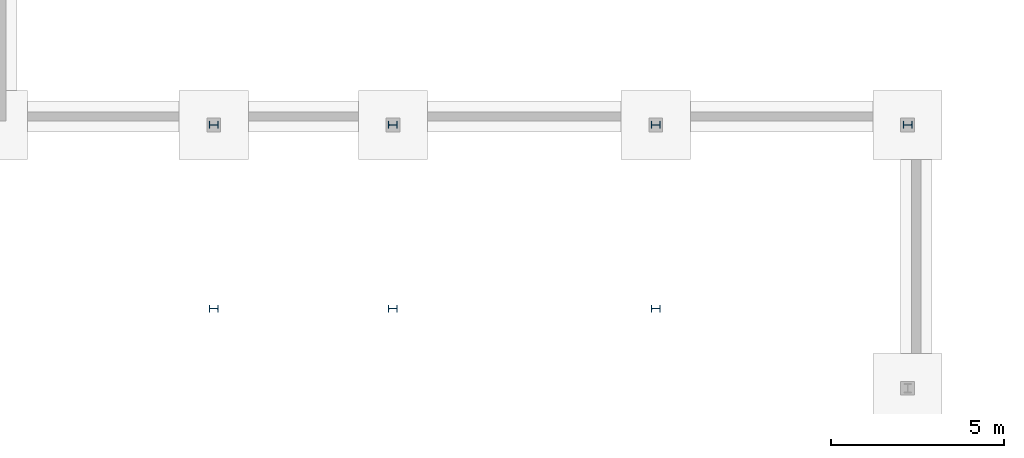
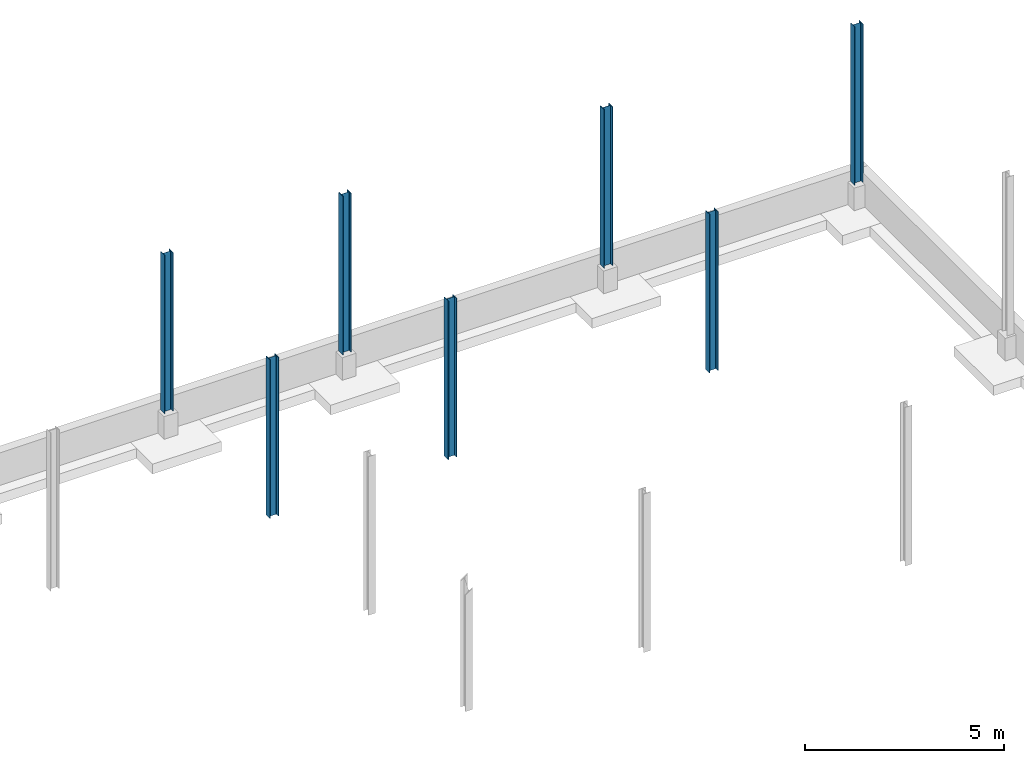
# One storey, part 9 of 11: 7 columns.
"""IFC2X3 building model written with IfcOpenShell, lengths in metres."""

from ifc_helpers import new_model, entity, si_unit, converted_unit, frame, frame_2d, origin, place, context, project, spatial, polyline, circle_curve, parameter, trimmed, segment, composite_curve, outline, extrude, source, transform, mapped, material, type_object, type_shapes, element, save


model = new_model("IFC2X3")

# Units and contexts
model_context = context("Model", 3, precision=1e-09, world=origin())
plan_context = context("Plan", 3, precision=1e-09, world=origin())
ifc_project = project(units=[si_unit("LENGTHUNIT", "METRE"), si_unit("AREAUNIT", "SQUARE_METRE"), si_unit("VOLUMEUNIT", "CUBIC_METRE"), converted_unit("PLANEANGLEUNIT", "DEGREE", entity("IfcRatioMeasure", 0.01745329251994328), si_unit("PLANEANGLEUNIT", "RADIAN"), dimensions=[0, 0, 0, 0, 0, 0, 0]), si_unit("TIMEUNIT", "SECOND")], contexts=[model_context, plan_context])

# Site, building, storey
site_placement = place(None, origin())
site = spatial("IfcSite", under=ifc_project, at=site_placement, Name="Default", CompositionType="ELEMENT")
building_placement = place(site_placement, origin())
building = spatial("IfcBuilding", under=site, at=building_placement, CompositionType="ELEMENT")
storey_placement = place(building_placement, frame((0.0, 0.0, -1.0)))
storey = spatial("IfcBuildingStorey", under=building, at=storey_placement, Name="TOF Footing", CompositionType="ELEMENT", Elevation=-1.000000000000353)

# Columns
ifc_material = material(Name="Metal - Steel - 345 MPa")
column_type = type_object("IfcColumnType", Name="W250X67", PredefinedType="COLUMN")
shared_shape = source(origin(), model_context, "Body", "SweptSolid", [
    extrude(outline(composite_curve([segment(polyline([(-0.102, -0.1285), (0.102, -0.1285)]), True, "CONTINUOUS"), segment(polyline([(0.102, -0.1285), (0.102, -0.1128)]), True, "CONTINUOUS"), segment(polyline([(0.102, -0.1128), (0.02174999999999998, -0.1128)]), True, "CONTINUOUS"), segment(trimmed(circle_curve(frame_2d((0.02174999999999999, -0.09549999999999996), x_axis=(-1.0, 0.0)), 0.0173), [parameter(4.071109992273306e-13)], [parameter(90.00000000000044)], True, "PARAMETER"), False, "CONTINUOUS"), segment(polyline([(0.004449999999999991, -0.09549999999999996), (0.004449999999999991, 0.09549999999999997)]), True, "CONTINUOUS"), segment(trimmed(circle_curve(frame_2d((0.02174999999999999, 0.09549999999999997), x_axis=(-1.0, 0.0)), 0.0173), [parameter(270.0000000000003)], [parameter(3.562221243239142e-13)], True, "PARAMETER"), False, "CONTINUOUS"), segment(polyline([(0.02174999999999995, 0.1128), (0.102, 0.1128)]), True, "CONTINUOUS"), segment(polyline([(0.102, 0.1128), (0.102, 0.1285)]), True, "CONTINUOUS"), segment(polyline([(0.102, 0.1285), (-0.102, 0.1285)]), True, "CONTINUOUS"), segment(polyline([(-0.102, 0.1285), (-0.102, 0.1128)]), True, "CONTINUOUS"), segment(polyline([(-0.102, 0.1128), (-0.02174999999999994, 0.1128)]), True, "CONTINUOUS"), segment(trimmed(circle_curve(frame_2d((-0.02175000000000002, 0.09549999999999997), x_axis=(-1.0, 0.0)), 0.0173), [parameter(179.9999999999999)], [parameter(269.9999999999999)], True, "PARAMETER"), False, "CONTINUOUS"), segment(polyline([(-0.004450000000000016, 0.09550000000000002), (-0.004450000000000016, -0.09549999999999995)]), True, "CONTINUOUS"), segment(trimmed(circle_curve(frame_2d((-0.02175000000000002, -0.09549999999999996), x_axis=(-1.0, 0.0)), 0.0173), [parameter(90.00000000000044)], [parameter(180.0000000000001)], True, "PARAMETER"), False, "CONTINUOUS"), segment(polyline([(-0.02175000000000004, -0.1128), (-0.102, -0.1128)]), True, "CONTINUOUS"), segment(polyline([(-0.102, -0.1128), (-0.102, -0.1285)]), True, "CONTINUOUS")], self_intersect=False)), frame((0.0, 0.0, -0.305000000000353), z_axis=(0.0, 0.0, 1.0), x_axis=(-1.0, 0.0, 0.0)), (0.0, 0.0, 1.0), 4.87500000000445),
])
type_shapes(column_type, [shared_shape])
for number, where, z_axis, x_axis in (
    (1, (-7.280000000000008, 44.77999999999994, 1.0), (0.0, 0.0, 1.0), (0.0, 1.0, 0.0)),
    (2, (-14.87997499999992, 44.77999999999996, 1.0), (0.0, 0.0, 1.0), (0.0, 1.0, 0.0)),
    (3, (-7.279999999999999, 50.08999999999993, 1.0), (0.0, 0.0, 1.0), (0.0, 1.0, 0.0)),
    (4, (-20.05999999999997, 50.08999999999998, 1.0), (0.0, 0.0, 1.0), (0.0, 1.0, 0.0)),
    (5, (0.0, 50.08999999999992, 1.0), (0.0, 0.0, 1.0), (0.0, 1.0, 0.0)),
    (6, (-14.87997499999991, 50.08999999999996, 1.0), (0.0, 0.0, 1.0), (0.0, 1.0, 0.0)),
    (7, (-20.05999999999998, 44.77999999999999, 1.0), (0.0, 0.0, 1.0), (0.0, 1.0, 0.0)),
):
    element("IfcColumn", number, at=place(storey_placement, frame(where, z_axis=z_axis, x_axis=x_axis)), inside=storey, type_object=column_type, material=ifc_material, Name="M_W-Wide Flange-Column:W250X67:W250X67", ObjectType="W250X67", context=model_context, shape_type="MappedRepresentation", body=[
        mapped(shared_shape, transform((0.0, 0.0, 0.0), scale=1.0)),
    ])

save(model, "model.ifc")
